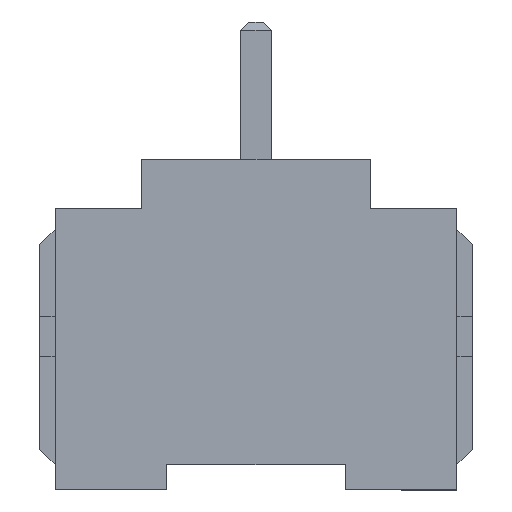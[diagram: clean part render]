
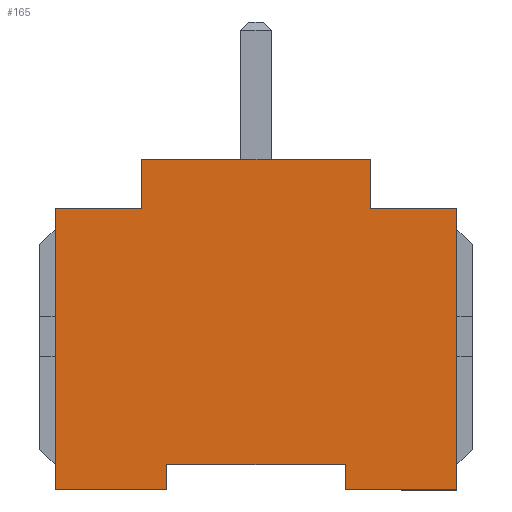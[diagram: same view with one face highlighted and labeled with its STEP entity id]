
A CAD part, left-side view. The second image highlights one B-rep face of the part: STEP entity #165.
In plain terms, the highlighted planar face has unit normal (-1, 0, 0).
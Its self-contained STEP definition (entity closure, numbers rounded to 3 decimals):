
#165=ADVANCED_FACE('',(#429),#430,.T.);
#429=FACE_OUTER_BOUND('',#694,.T.);
#430=PLANE('',#695);
#694=EDGE_LOOP('',(#1599,#1600,#1601,#1602,#1603,#1604,#1605,#1606,#1607,#1608,#1609,#1610));
#695=AXIS2_PLACEMENT_3D('',#1611,#1612,#1613);
#1599=ORIENTED_EDGE('',*,*,#1885,.F.);
#1600=ORIENTED_EDGE('',*,*,#1911,.F.);
#1601=ORIENTED_EDGE('',*,*,#1801,.F.);
#1602=ORIENTED_EDGE('',*,*,#1909,.F.);
#1603=ORIENTED_EDGE('',*,*,#1906,.F.);
#1604=ORIENTED_EDGE('',*,*,#1903,.F.);
#1605=ORIENTED_EDGE('',*,*,#1900,.F.);
#1606=ORIENTED_EDGE('',*,*,#1897,.F.);
#1607=ORIENTED_EDGE('',*,*,#1789,.F.);
#1608=ORIENTED_EDGE('',*,*,#1895,.F.);
#1609=ORIENTED_EDGE('',*,*,#1892,.F.);
#1610=ORIENTED_EDGE('',*,*,#1889,.F.);
#1611=CARTESIAN_POINT('',(-26.8,0.0,25.974));
#1612=DIRECTION('',(-1.0,0.0,0.));
#1613=DIRECTION('',(0.,0.0,1.0));
#1789=EDGE_CURVE('',#2181,#2182,#2183,.T.);
#1801=EDGE_CURVE('',#2205,#2206,#2207,.T.);
#1885=EDGE_CURVE('',#2341,#2342,#2343,.T.);
#1889=EDGE_CURVE('',#2342,#2349,#2350,.T.);
#1892=EDGE_CURVE('',#2349,#2354,#2355,.T.);
#1895=EDGE_CURVE('',#2354,#2181,#2359,.T.);
#1897=EDGE_CURVE('',#2182,#2361,#2362,.T.);
#1900=EDGE_CURVE('',#2361,#2366,#2367,.T.);
#1903=EDGE_CURVE('',#2366,#2371,#2372,.T.);
#1906=EDGE_CURVE('',#2371,#2376,#2377,.T.);
#1909=EDGE_CURVE('',#2376,#2205,#2381,.T.);
#1911=EDGE_CURVE('',#2206,#2341,#2383,.T.);
#2181=VERTEX_POINT('',#2789);
#2182=VERTEX_POINT('',#2790);
#2183=LINE('',#2791,#2792);
#2205=VERTEX_POINT('',#2825);
#2206=VERTEX_POINT('',#2826);
#2207=LINE('',#2827,#2828);
#2341=VERTEX_POINT('',#3045);
#2342=VERTEX_POINT('',#3046);
#2343=LINE('',#3047,#3048);
#2349=VERTEX_POINT('',#3057);
#2350=LINE('',#3058,#3059);
#2354=VERTEX_POINT('',#3065);
#2355=LINE('',#3066,#3067);
#2359=LINE('',#3073,#3074);
#2361=VERTEX_POINT('',#3077);
#2362=LINE('',#3078,#3079);
#2366=VERTEX_POINT('',#3085);
#2367=LINE('',#3086,#3087);
#2371=VERTEX_POINT('',#3093);
#2372=LINE('',#3094,#3095);
#2376=VERTEX_POINT('',#3101);
#2377=LINE('',#3102,#3103);
#2381=LINE('',#3109,#3110);
#2383=LINE('',#3113,#3114);
#2789=CARTESIAN_POINT('',(-26.8,39.5,-5.0));
#2790=CARTESIAN_POINT('',(-26.8,39.5,50.3));
#2791=CARTESIAN_POINT('',(-26.8,39.5,-5.0));
#2792=VECTOR('',#3325,1.0);
#2825=CARTESIAN_POINT('',(-26.8,-39.5,50.3));
#2826=CARTESIAN_POINT('',(-26.8,-39.5,-5.0));
#2827=CARTESIAN_POINT('',(-26.8,-39.5,-5.0));
#2828=VECTOR('',#3337,1.0);
#3045=CARTESIAN_POINT('',(-26.8,-17.5,-5.0));
#3046=CARTESIAN_POINT('',(-26.8,-17.5,0.));
#3047=CARTESIAN_POINT('',(-26.8,-17.5,-5.0));
#3048=VECTOR('',#3421,1.0);
#3057=CARTESIAN_POINT('',(-26.8,17.5,0.));
#3058=CARTESIAN_POINT('',(-26.8,-17.5,0.));
#3059=VECTOR('',#3425,1.0);
#3065=CARTESIAN_POINT('',(-26.8,17.5,-5.0));
#3066=CARTESIAN_POINT('',(-26.8,17.5,-5.0));
#3067=VECTOR('',#3428,1.0);
#3073=CARTESIAN_POINT('',(-26.8,17.5,-5.0));
#3074=VECTOR('',#3431,1.0);
#3077=CARTESIAN_POINT('',(-26.8,22.5,50.3));
#3078=CARTESIAN_POINT('',(-26.8,22.5,50.3));
#3079=VECTOR('',#3433,1.0);
#3085=CARTESIAN_POINT('',(-26.8,22.5,60.0));
#3086=CARTESIAN_POINT('',(-26.8,22.5,50.3));
#3087=VECTOR('',#3436,1.0);
#3093=CARTESIAN_POINT('',(-26.8,-22.5,60.0));
#3094=CARTESIAN_POINT('',(-26.8,-22.5,60.0));
#3095=VECTOR('',#3439,1.0);
#3101=CARTESIAN_POINT('',(-26.8,-22.5,50.3));
#3102=CARTESIAN_POINT('',(-26.8,-22.5,50.3));
#3103=VECTOR('',#3442,1.0);
#3109=CARTESIAN_POINT('',(-26.8,-39.5,50.3));
#3110=VECTOR('',#3445,1.0);
#3113=CARTESIAN_POINT('',(-26.8,-39.5,-5.0));
#3114=VECTOR('',#3447,1.0);
#3325=DIRECTION('',(0.,0.0,1.0));
#3337=DIRECTION('',(0.,0.,-1.0));
#3421=DIRECTION('',(0.,0.0,1.0));
#3425=DIRECTION('',(0.,1.0,0.));
#3428=DIRECTION('',(0.,-0.0,-1.0));
#3431=DIRECTION('',(0.0,1.0,0.0));
#3433=DIRECTION('',(0.0,-1.0,-0.0));
#3436=DIRECTION('',(0.,0.,1.0));
#3439=DIRECTION('',(0.0,-1.0,-0.0));
#3442=DIRECTION('',(0.,-0.0,-1.0));
#3445=DIRECTION('',(0.0,-1.0,-0.0));
#3447=DIRECTION('',(0.,1.0,0.));
